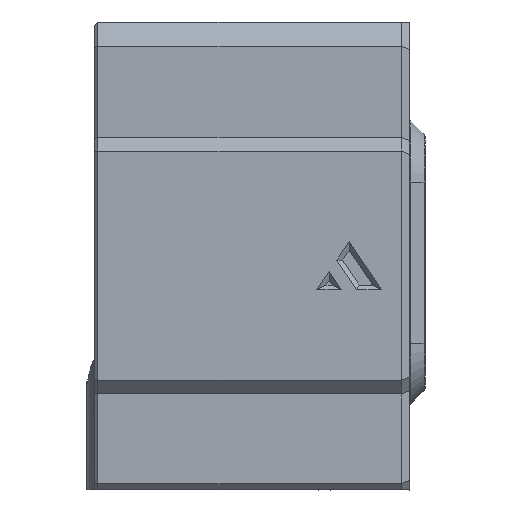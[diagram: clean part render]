
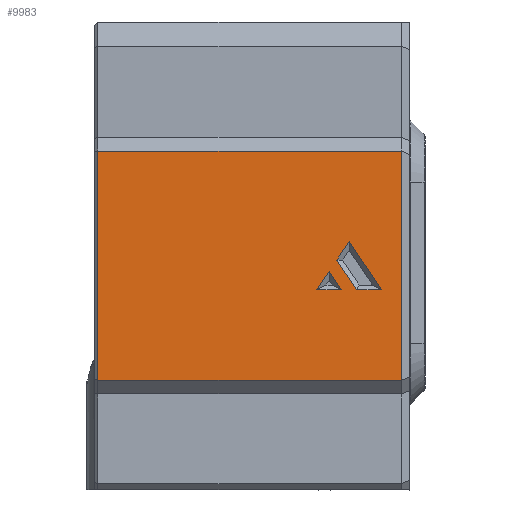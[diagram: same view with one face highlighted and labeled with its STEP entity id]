
A CAD part, left-side view. The second image highlights one B-rep face of the part: STEP entity #9983.
In plain terms, the highlighted planar face has unit normal (-1, 0, 0).
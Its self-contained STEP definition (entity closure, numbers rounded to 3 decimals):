
#125=FACE_BOUND('',#3200,.T.);
#126=FACE_BOUND('',#3201,.T.);
#170=PLANE('',#10711);
#774=LINE('',#15014,#1670);
#775=LINE('',#15016,#1671);
#776=LINE('',#15018,#1672);
#777=LINE('',#15019,#1673);
#778=LINE('',#15022,#1674);
#779=LINE('',#15024,#1675);
#780=LINE('',#15026,#1676);
#781=LINE('',#15027,#1677);
#782=LINE('',#15030,#1678);
#783=LINE('',#15032,#1679);
#784=LINE('',#15033,#1680);
#1670=VECTOR('',#11848,1000.);
#1671=VECTOR('',#11849,1000.);
#1672=VECTOR('',#11850,1000.);
#1673=VECTOR('',#11851,1000.);
#1674=VECTOR('',#11852,1000.);
#1675=VECTOR('',#11853,1000.);
#1676=VECTOR('',#11854,1000.);
#1677=VECTOR('',#11855,1000.);
#1678=VECTOR('',#11856,1000.);
#1679=VECTOR('',#11857,1000.);
#1680=VECTOR('',#11858,1000.);
#2571=FACE_OUTER_BOUND('',#3199,.T.);
#3199=EDGE_LOOP('',(#7032,#7033,#7034,#7035));
#3200=EDGE_LOOP('',(#7036,#7037,#7038,#7039));
#3201=EDGE_LOOP('',(#7040,#7041,#7042));
#4540=VERTEX_POINT('',#15012);
#4541=VERTEX_POINT('',#15013);
#4542=VERTEX_POINT('',#15015);
#4543=VERTEX_POINT('',#15017);
#4544=VERTEX_POINT('',#15020);
#4545=VERTEX_POINT('',#15021);
#4546=VERTEX_POINT('',#15023);
#4547=VERTEX_POINT('',#15025);
#4548=VERTEX_POINT('',#15028);
#4549=VERTEX_POINT('',#15029);
#4550=VERTEX_POINT('',#15031);
#5478=EDGE_CURVE('',#4540,#4541,#774,.T.);
#5479=EDGE_CURVE('',#4540,#4542,#775,.T.);
#5480=EDGE_CURVE('',#4542,#4543,#776,.T.);
#5481=EDGE_CURVE('',#4543,#4541,#777,.T.);
#5482=EDGE_CURVE('',#4544,#4545,#778,.T.);
#5483=EDGE_CURVE('',#4545,#4546,#779,.T.);
#5484=EDGE_CURVE('',#4546,#4547,#780,.T.);
#5485=EDGE_CURVE('',#4547,#4544,#781,.T.);
#5486=EDGE_CURVE('',#4548,#4549,#782,.T.);
#5487=EDGE_CURVE('',#4548,#4550,#783,.T.);
#5488=EDGE_CURVE('',#4550,#4549,#784,.T.);
#7032=ORIENTED_EDGE('',*,*,#5478,.F.);
#7033=ORIENTED_EDGE('',*,*,#5479,.T.);
#7034=ORIENTED_EDGE('',*,*,#5480,.T.);
#7035=ORIENTED_EDGE('',*,*,#5481,.T.);
#7036=ORIENTED_EDGE('',*,*,#5482,.T.);
#7037=ORIENTED_EDGE('',*,*,#5483,.T.);
#7038=ORIENTED_EDGE('',*,*,#5484,.T.);
#7039=ORIENTED_EDGE('',*,*,#5485,.T.);
#7040=ORIENTED_EDGE('',*,*,#5486,.F.);
#7041=ORIENTED_EDGE('',*,*,#5487,.T.);
#7042=ORIENTED_EDGE('',*,*,#5488,.T.);
#9983=ADVANCED_FACE('',(#2571,#125,#126),#170,.T.);
#10711=AXIS2_PLACEMENT_3D('',#15011,#11846,#11847);
#11846=DIRECTION('center_axis',(-1.,0.,0.));
#11847=DIRECTION('ref_axis',(0.,0.,1.));
#11848=DIRECTION('',(0.,1.,0.));
#11849=DIRECTION('',(0.,0.,1.));
#11850=DIRECTION('',(0.,1.,0.));
#11851=DIRECTION('',(0.,0.,-1.));
#11852=DIRECTION('',(0.,-0.555,0.832));
#11853=DIRECTION('',(0.,-0.555,-0.832));
#11854=DIRECTION('',(0.,1.,0.));
#11855=DIRECTION('',(0.,0.555,0.832));
#11856=DIRECTION('',(0.,0.555,0.832));
#11857=DIRECTION('',(0.,1.,0.));
#11858=DIRECTION('',(0.,-0.555,0.832));
#15011=CARTESIAN_POINT('Origin',(-1.7,-67.451,13.6));
#15012=CARTESIAN_POINT('',(-1.7,-38.,13.6));
#15013=CARTESIAN_POINT('',(-1.7,-0.4,13.6));
#15014=CARTESIAN_POINT('',(-1.7,-67.451,13.6));
#15015=CARTESIAN_POINT('',(-1.7,-38.,42.));
#15016=CARTESIAN_POINT('',(-1.7,-38.,13.6));
#15017=CARTESIAN_POINT('',(-1.7,-0.4,42.));
#15018=CARTESIAN_POINT('',(-1.7,-67.451,42.));
#15019=CARTESIAN_POINT('',(-1.7,-0.4,13.6));
#15020=CARTESIAN_POINT('',(-1.7,-30.011,28.492));
#15021=CARTESIAN_POINT('',(-1.7,-31.55,30.8));
#15022=CARTESIAN_POINT('',(-1.7,-7.627,-5.085));
#15023=CARTESIAN_POINT('',(-1.7,-35.55,24.8));
#15024=CARTESIAN_POINT('',(-1.7,-36.058,24.038));
#15025=CARTESIAN_POINT('',(-1.7,-32.473,24.8));
#15026=CARTESIAN_POINT('',(-1.7,0.,24.8));
#15027=CARTESIAN_POINT('',(-1.7,-33.927,22.618));
#15028=CARTESIAN_POINT('',(-1.7,-30.55,24.8));
#15029=CARTESIAN_POINT('',(-1.7,-29.05,27.05));
#15030=CARTESIAN_POINT('',(-1.7,-32.596,21.731));
#15031=CARTESIAN_POINT('',(-1.7,-27.55,24.8));
#15032=CARTESIAN_POINT('',(-1.7,0.,24.8));
#15033=CARTESIAN_POINT('',(-1.7,-7.627,-5.085));
